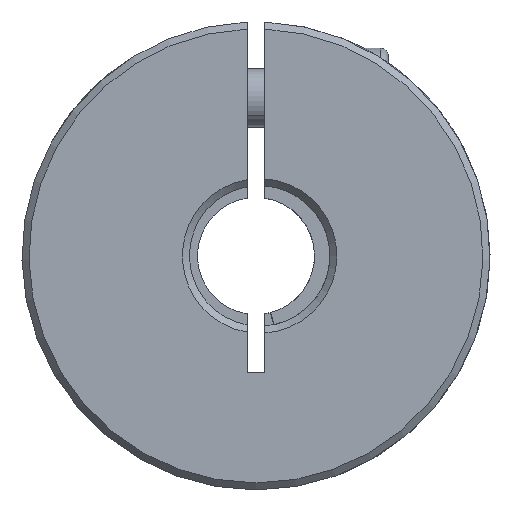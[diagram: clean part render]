
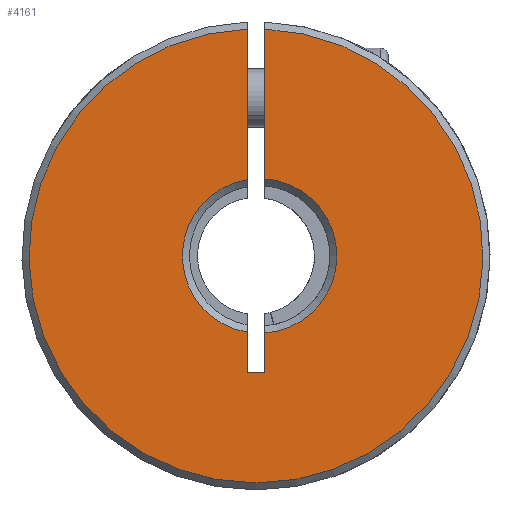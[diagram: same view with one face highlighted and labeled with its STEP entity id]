
A CAD part, front view. The second image highlights one B-rep face of the part: STEP entity #4161.
In plain terms, the highlighted planar face has unit normal (0, -1, 0).
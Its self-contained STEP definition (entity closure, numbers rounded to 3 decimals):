
#40 = DIRECTION ( 'NONE',  ( 0., 0., 1. ) ) ;
#143 = DIRECTION ( 'NONE',  ( 0., 1., 0. ) ) ;
#202 = DIRECTION ( 'NONE',  ( 0., 0., -1. ) ) ;
#384 = LINE ( 'NONE', #5599, #1246 ) ;
#390 = DIRECTION ( 'NONE',  ( 0., 0., -1. ) ) ;
#488 = CARTESIAN_POINT ( 'NONE',  ( 0.75, -30., 19.385 ) ) ;
#586 = EDGE_CURVE ( 'NONE', #5379, #5414, #4372, .T. ) ;
#814 = ORIENTED_EDGE ( 'NONE', *, *, #990, .T. ) ;
#990 = EDGE_CURVE ( 'NONE', #2266, #5120, #1741, .T. ) ;
#1012 = LINE ( 'NONE', #2864, #3191 ) ;
#1115 = CARTESIAN_POINT ( 'NONE',  ( 0., -30., 0. ) ) ;
#1138 = VECTOR ( 'NONE', #2117, 1000. ) ;
#1141 = EDGE_CURVE ( 'NONE', #5120, #4141, #1012, .T. ) ;
#1156 = AXIS2_PLACEMENT_3D ( 'NONE', #4160, #4216, #2877 ) ;
#1246 = VECTOR ( 'NONE', #40, 1000. ) ;
#1314 = LINE ( 'NONE', #2704, #5072 ) ;
#1424 = AXIS2_PLACEMENT_3D ( 'NONE', #2291, #3294, #5107 ) ;
#1452 = CARTESIAN_POINT ( 'NONE',  ( 0.75, -30., -6.586 ) ) ;
#1502 = CARTESIAN_POINT ( 'NONE',  ( 0.75, -30., 6.586 ) ) ;
#1512 = CARTESIAN_POINT ( 'NONE',  ( -0.75, -30., -10. ) ) ;
#1556 = ORIENTED_EDGE ( 'NONE', *, *, #5538, .T. ) ;
#1631 = LINE ( 'NONE', #5948, #1138 ) ;
#1741 = CIRCLE ( 'NONE', #5144, 19.4 ) ;
#1895 = DIRECTION ( 'NONE',  ( 0., 0., 1. ) ) ;
#1934 = LINE ( 'NONE', #1512, #3641 ) ;
#2050 = PLANE ( 'NONE',  #2882 ) ;
#2079 = FACE_OUTER_BOUND ( 'NONE', #4078, .T. ) ;
#2117 = DIRECTION ( 'NONE',  ( 0., 0., 1. ) ) ;
#2223 = ORIENTED_EDGE ( 'NONE', *, *, #3467, .T. ) ;
#2266 = VERTEX_POINT ( 'NONE', #3334 ) ;
#2291 = CARTESIAN_POINT ( 'NONE',  ( 0.314, -30., 0. ) ) ;
#2689 = VERTEX_POINT ( 'NONE', #1452 ) ;
#2704 = CARTESIAN_POINT ( 'NONE',  ( 0.75, -30., -10. ) ) ;
#2864 = CARTESIAN_POINT ( 'NONE',  ( 0.75, -30., -10. ) ) ;
#2877 = DIRECTION ( 'NONE',  ( 0., 0., 1. ) ) ;
#2882 = AXIS2_PLACEMENT_3D ( 'NONE', #1115, #143, #4867 ) ;
#3060 = CARTESIAN_POINT ( 'NONE',  ( -0.75, -30., 6.514 ) ) ;
#3096 = EDGE_CURVE ( 'NONE', #4141, #2689, #4352, .T. ) ;
#3191 = VECTOR ( 'NONE', #202, 1000. ) ;
#3279 = EDGE_CURVE ( 'NONE', #4402, #5379, #1631, .T. ) ;
#3294 = DIRECTION ( 'NONE',  ( 0., 1., 0. ) ) ;
#3334 = CARTESIAN_POINT ( 'NONE',  ( -0.75, -30., 19.385 ) ) ;
#3463 = ORIENTED_EDGE ( 'NONE', *, *, #3096, .T. ) ;
#3467 = EDGE_CURVE ( 'NONE', #5414, #2266, #384, .T. ) ;
#3641 = VECTOR ( 'NONE', #4322, 1000. ) ;
#3806 = DIRECTION ( 'NONE',  ( 0., -1., 0. ) ) ;
#3957 = CARTESIAN_POINT ( 'NONE',  ( 0.75, -30., -10. ) ) ;
#4078 = EDGE_LOOP ( 'NONE', ( #5902, #3463, #1556, #5994, #4884, #4713, #2223, #814 ) ) ;
#4141 = VERTEX_POINT ( 'NONE', #1502 ) ;
#4160 = CARTESIAN_POINT ( 'NONE',  ( 0.314, -30., 0. ) ) ;
#4161 = ADVANCED_FACE ( 'NONE', ( #2079 ), #2050, .F. ) ;
#4216 = DIRECTION ( 'NONE',  ( 0., 1., 0. ) ) ;
#4322 = DIRECTION ( 'NONE',  ( -1., 0., 0. ) ) ;
#4352 = CIRCLE ( 'NONE', #1424, 6.6 ) ;
#4372 = CIRCLE ( 'NONE', #1156, 6.6 ) ;
#4402 = VERTEX_POINT ( 'NONE', #5573 ) ;
#4620 = CARTESIAN_POINT ( 'NONE',  ( 0., -30., 0. ) ) ;
#4713 = ORIENTED_EDGE ( 'NONE', *, *, #586, .T. ) ;
#4838 = CARTESIAN_POINT ( 'NONE',  ( -0.75, -30., -6.514 ) ) ;
#4867 = DIRECTION ( 'NONE',  ( 0., 0., 1. ) ) ;
#4884 = ORIENTED_EDGE ( 'NONE', *, *, #3279, .T. ) ;
#5026 = VERTEX_POINT ( 'NONE', #3957 ) ;
#5072 = VECTOR ( 'NONE', #390, 1000. ) ;
#5107 = DIRECTION ( 'NONE',  ( 0., 0., 1. ) ) ;
#5120 = VERTEX_POINT ( 'NONE', #488 ) ;
#5144 = AXIS2_PLACEMENT_3D ( 'NONE', #4620, #3806, #1895 ) ;
#5265 = EDGE_CURVE ( 'NONE', #5026, #4402, #1934, .T. ) ;
#5379 = VERTEX_POINT ( 'NONE', #4838 ) ;
#5414 = VERTEX_POINT ( 'NONE', #3060 ) ;
#5538 = EDGE_CURVE ( 'NONE', #2689, #5026, #1314, .T. ) ;
#5573 = CARTESIAN_POINT ( 'NONE',  ( -0.75, -30., -10. ) ) ;
#5599 = CARTESIAN_POINT ( 'NONE',  ( -0.75, -30., -10. ) ) ;
#5902 = ORIENTED_EDGE ( 'NONE', *, *, #1141, .T. ) ;
#5948 = CARTESIAN_POINT ( 'NONE',  ( -0.75, -30., -10. ) ) ;
#5994 = ORIENTED_EDGE ( 'NONE', *, *, #5265, .T. ) ;
